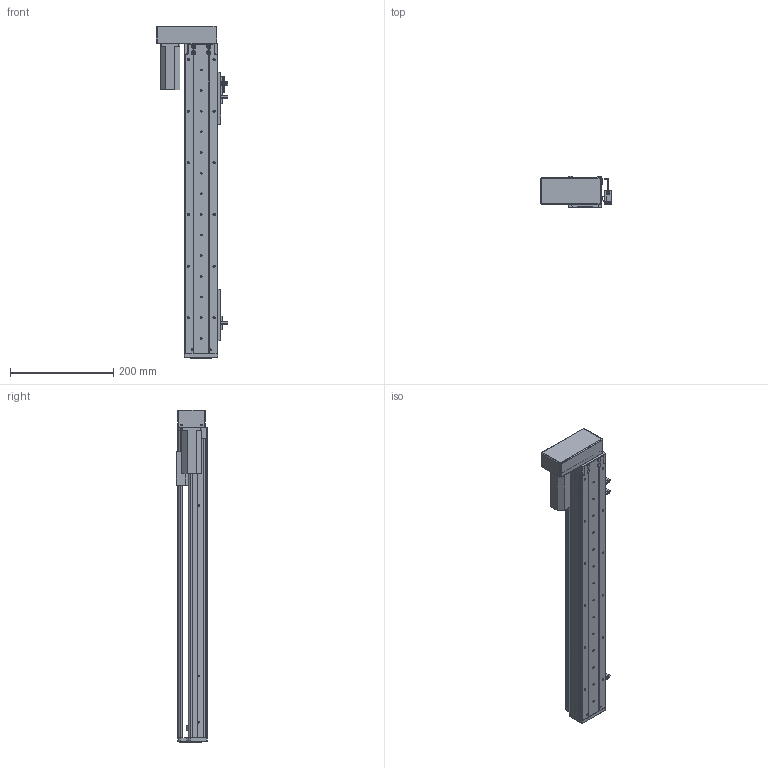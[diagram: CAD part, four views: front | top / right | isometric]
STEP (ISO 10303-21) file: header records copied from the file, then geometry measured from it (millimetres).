
FILE_DESCRIPTION (( 'STEP AP203' ), '1' );
FILE_NAME ('RY60-L1210-300-LK.SLDASM_450.step', '2021-02-20T06:53:59', ( '盈信电脑' ), ( '东莞市道滘镇水果街19号' ), 'SwSTEP 2.0', 'SolidWorks 2012', '' );
FILE_SCHEMA (( 'CONFIG_CONTROL_DESIGN' ));
Length unit declared in the file: millimetre
Products named in the file (14): RY60-L1210-300-LK.SLDASM_450; RY60酘衵殏萇儂欶; RY60转折电机端支撑座; 滅袉蝶18-10; 侂狟100W; RY60左右折电机安装板-PCD46-M4; 覜茼ん672; 672嫖萇羲壽假蚾釱; RY80俋离覜茼え; RY60綴裔啣; RY60臏賑輸; RY60-300-MGW12絳寢-LK_450; RY60-300倰第裔啣-LK_450; RY60-300倰第菁釱-LK_450
Assembly tree (19 placements, depth 2):
  RY60-L1210-300-LK.SLDASM_450
    RY60-300倰第菁釱-LK_450
    RY60-300-MGW12絳寢-LK_450
    RY60臏賑輸
    RY60-300倰第裔啣-LK_450
    672嫖萇羲壽假蚾釱  x2
    RY60綴裔啣
    覜茼ん672  x3
    RY80俋离覜茼え
    滅袉蝶18-10  x4
    RY60转折电机端支撑座
    RY60左右折电机安装板-PCD46-M4
    侂狟100W
    RY60酘衵殏萇儂欶
Bounding box: 137.9 x 61 x 643 mm (x, y, z)
Volume: 974609.6 mm3; surface area: 474348.1 mm2
Topology: 19 solids, 19 shells, 1506 faces, 4172 edges, 2678 vertices
Faces by surface type: plane 733, cylinder 650, cone 106, bspline 17
Entity records: 44984 total; most frequent: CARTESIAN_POINT 10410, ORIENTED_EDGE 6916, DIRECTION 6812, EDGE_CURVE 3458, AXIS2_PLACEMENT_3D 2370, VERTEX_POINT 2258, VECTOR 2072, LINE 2072
